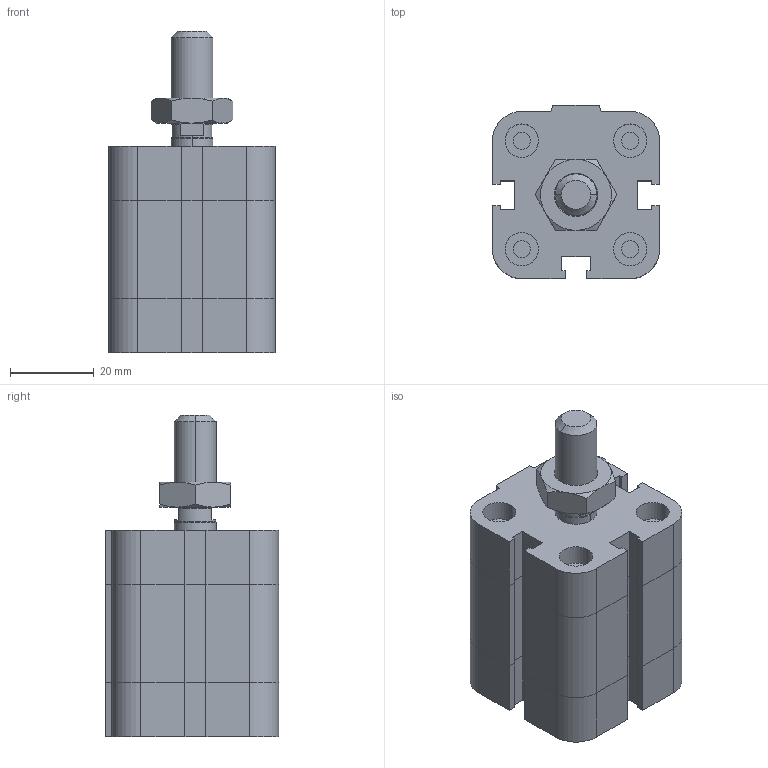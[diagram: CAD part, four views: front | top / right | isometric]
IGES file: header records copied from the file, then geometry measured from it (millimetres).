
Global section: file name: No Iges File Name specified; native system: Autodesk Inventor 2009; preprocessor: AutoDesk Inventor Iges Exporter R2009; author: rivolro1; date: 20081219.161626; units: millimetre
Bounding box: 40 x 41.5 x 77 mm (x, y, z)
Volume: 72532 mm3; surface area: 18874.8 mm2
Topology: 3 solids, 3 shells, 216 faces, 472 edges, 282 vertices
Faces by surface type: plane 121, bspline 37, cylinder 20, cone 20, revolution 18
